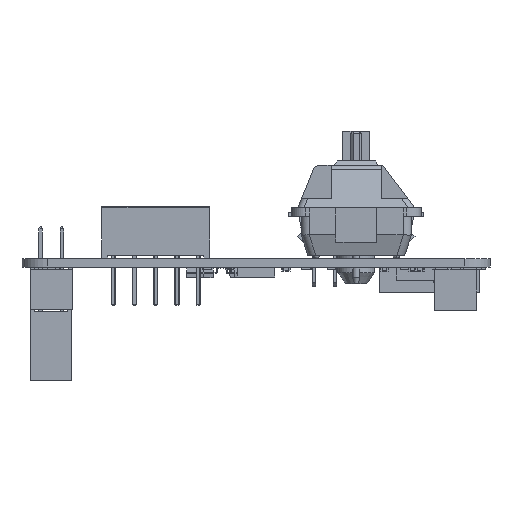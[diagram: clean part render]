
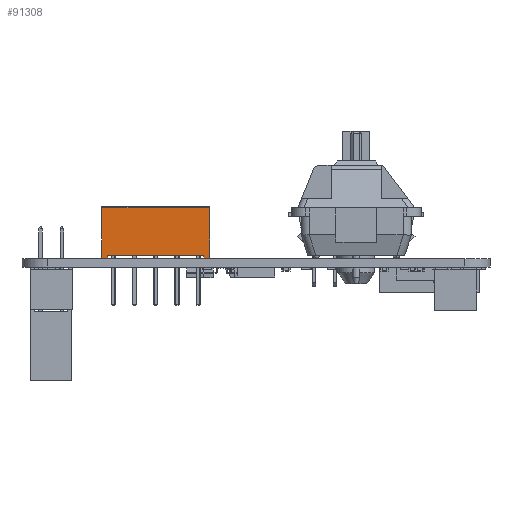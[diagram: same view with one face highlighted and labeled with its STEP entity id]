
A CAD part, left-side view. The second image highlights one B-rep face of the part: STEP entity #91308.
In plain terms, the highlighted planar face has unit normal (-1, 0, 0).
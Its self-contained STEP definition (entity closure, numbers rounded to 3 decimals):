
#91053 = VERTEX_POINT('',#91054);
#91054 = CARTESIAN_POINT('',(-4.815,-5.75,0.5));
#91060 = EDGE_CURVE('',#91053,#91061,#91063,.T.);
#91061 = VERTEX_POINT('',#91062);
#91062 = CARTESIAN_POINT('',(-4.815,5.75,0.5));
#91063 = LINE('',#91064,#91065);
#91064 = CARTESIAN_POINT('',(-4.815,0.,0.5));
#91065 = VECTOR('',#91066,1.);
#91066 = DIRECTION('',(0.,1.,0.));
#91218 = VERTEX_POINT('',#91219);
#91219 = CARTESIAN_POINT('',(-4.815,6.45,0.));
#91227 = EDGE_CURVE('',#91228,#91218,#91230,.T.);
#91228 = VERTEX_POINT('',#91229);
#91229 = CARTESIAN_POINT('',(-4.815,6.45,6.26));
#91230 = LINE('',#91231,#91232);
#91231 = CARTESIAN_POINT('',(-4.815,6.45,6.26));
#91232 = VECTOR('',#91233,1.);
#91233 = DIRECTION('',(0.,-0.,-1.));
#91289 = EDGE_CURVE('',#91290,#91061,#91292,.T.);
#91290 = VERTEX_POINT('',#91291);
#91291 = CARTESIAN_POINT('',(-4.815,5.75,0.));
#91292 = LINE('',#91293,#91294);
#91293 = CARTESIAN_POINT('',(-4.815,5.75,0.25));
#91294 = VECTOR('',#91295,1.);
#91295 = DIRECTION('',(0.,-0.,1.));
#91308 = ADVANCED_FACE('',(#91309),#91350,.F.);
#91309 = FACE_BOUND('',#91310,.T.);
#91310 = EDGE_LOOP('',(#91311,#91321,#91329,#91335,#91336,#91342,#91343,
    #91344));
#91311 = ORIENTED_EDGE('',*,*,#91312,.F.);
#91312 = EDGE_CURVE('',#91313,#91315,#91317,.T.);
#91313 = VERTEX_POINT('',#91314);
#91314 = CARTESIAN_POINT('',(-4.815,-6.45,0.));
#91315 = VERTEX_POINT('',#91316);
#91316 = CARTESIAN_POINT('',(-4.815,-5.75,0.));
#91317 = LINE('',#91318,#91319);
#91318 = CARTESIAN_POINT('',(-4.815,0.,0.));
#91319 = VECTOR('',#91320,1.);
#91320 = DIRECTION('',(-0.,1.,0.));
#91321 = ORIENTED_EDGE('',*,*,#91322,.F.);
#91322 = EDGE_CURVE('',#91323,#91313,#91325,.T.);
#91323 = VERTEX_POINT('',#91324);
#91324 = CARTESIAN_POINT('',(-4.815,-6.45,6.26));
#91325 = LINE('',#91326,#91327);
#91326 = CARTESIAN_POINT('',(-4.815,-6.45,6.26));
#91327 = VECTOR('',#91328,1.);
#91328 = DIRECTION('',(0.,0.,-1.));
#91329 = ORIENTED_EDGE('',*,*,#91330,.F.);
#91330 = EDGE_CURVE('',#91228,#91323,#91331,.T.);
#91331 = LINE('',#91332,#91333);
#91332 = CARTESIAN_POINT('',(-4.815,0.,6.26));
#91333 = VECTOR('',#91334,1.);
#91334 = DIRECTION('',(0.,-1.,-0.));
#91335 = ORIENTED_EDGE('',*,*,#91227,.T.);
#91336 = ORIENTED_EDGE('',*,*,#91337,.F.);
#91337 = EDGE_CURVE('',#91290,#91218,#91338,.T.);
#91338 = LINE('',#91339,#91340);
#91339 = CARTESIAN_POINT('',(-4.815,0.,0.));
#91340 = VECTOR('',#91341,1.);
#91341 = DIRECTION('',(-0.,1.,0.));
#91342 = ORIENTED_EDGE('',*,*,#91289,.T.);
#91343 = ORIENTED_EDGE('',*,*,#91060,.F.);
#91344 = ORIENTED_EDGE('',*,*,#91345,.F.);
#91345 = EDGE_CURVE('',#91315,#91053,#91346,.T.);
#91346 = LINE('',#91347,#91348);
#91347 = CARTESIAN_POINT('',(-4.815,-5.75,6.26));
#91348 = VECTOR('',#91349,1.);
#91349 = DIRECTION('',(-0.,-0.,1.));
#91350 = PLANE('',#91351);
#91351 = AXIS2_PLACEMENT_3D('',#91352,#91353,#91354);
#91352 = CARTESIAN_POINT('',(-4.815,0.,6.26));
#91353 = DIRECTION('',(1.,0.,0.));
#91354 = DIRECTION('',(0.,0.,-1.));
